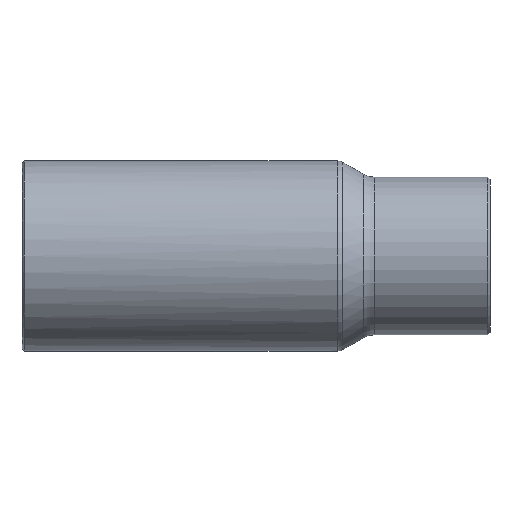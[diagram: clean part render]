
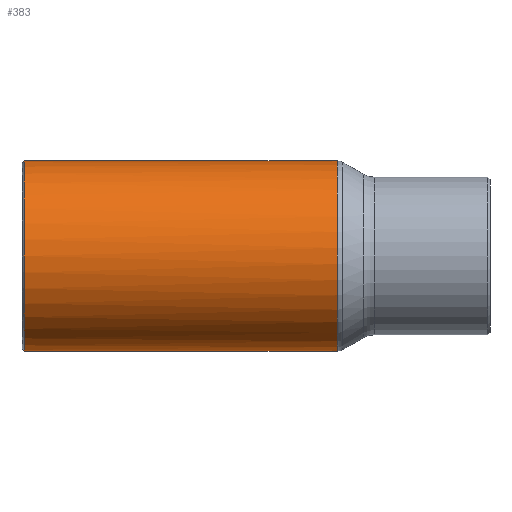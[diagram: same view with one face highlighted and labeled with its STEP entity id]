
A CAD part, front view. The second image highlights one B-rep face of the part: STEP entity #383.
In plain terms, the highlighted cylindrical face has radius 9.05 mm (diameter 18.1 mm), a full revolution.
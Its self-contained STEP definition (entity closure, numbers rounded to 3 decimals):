
#121=CARTESIAN_POINT('',(0.,0.0,-9.05));
#122=VERTEX_POINT('',#121);
#123=CARTESIAN_POINT('',(0.,0.0,9.05));
#124=VERTEX_POINT('',#123);
#309=CARTESIAN_POINT('',(-20.7,9.05,0.));
#310=VERTEX_POINT('',#309);
#311=CARTESIAN_POINT('',(-20.7,0.0,0.0));
#312=DIRECTION('',(-1.0,0.0,0.0));
#313=DIRECTION('',(0.0,-1.0,0.0));
#314=AXIS2_PLACEMENT_3D('',#311,#312,#313);
#315=CIRCLE('',#314,9.05);
#316=EDGE_CURVE('',#310,#310,#315,.T.);
#341=CARTESIAN_POINT('',(1.35,0.0,0.0));
#342=DIRECTION('',(1.0,0.0,0.0));
#343=DIRECTION('',(0.0,1.0,0.0));
#344=AXIS2_PLACEMENT_3D('',#341,#342,#343);
#345=CYLINDRICAL_SURFACE('',#344,9.05);
#346=CARTESIAN_POINT('',(9.099,7.13,5.574));
#347=VERTEX_POINT('',#346);
#348=CARTESIAN_POINT('',(9.099,7.13,-5.574));
#349=VERTEX_POINT('',#348);
#350=CARTESIAN_POINT('',(9.099,0.0,0.0));
#351=DIRECTION('',(1.0,0.0,0.0));
#352=DIRECTION('',(0.0,-1.0,0.0));
#353=AXIS2_PLACEMENT_3D('',#350,#351,#352);
#354=CIRCLE('',#353,9.05);
#355=EDGE_CURVE('',#347,#349,#354,.T.);
#356=ORIENTED_EDGE('',*,*,#355,.F.);
#357=CARTESIAN_POINT('',(0.0,0.0,0.0));
#358=DIRECTION('',(-0.617,0.787,0.0));
#359=DIRECTION('',(0.787,0.617,0.0));
#360=AXIS2_PLACEMENT_3D('',#357,#358,#359);
#361=ELLIPSE('',#360,14.673,9.05);
#362=EDGE_CURVE('',#124,#347,#361,.T.);
#363=ORIENTED_EDGE('',*,*,#362,.F.);
#364=CARTESIAN_POINT('',(0.0,0.0,0.0));
#365=DIRECTION('',(0.617,0.787,0.0));
#366=DIRECTION('',(-0.787,0.617,0.0));
#367=AXIS2_PLACEMENT_3D('',#364,#365,#366);
#368=ELLIPSE('',#367,14.673,9.05);
#369=EDGE_CURVE('',#122,#124,#368,.T.);
#370=ORIENTED_EDGE('',*,*,#369,.F.);
#371=CARTESIAN_POINT('',(0.0,0.0,0.0));
#372=DIRECTION('',(-0.617,0.787,0.0));
#373=DIRECTION('',(0.787,0.617,0.0));
#374=AXIS2_PLACEMENT_3D('',#371,#372,#373);
#375=ELLIPSE('',#374,14.673,9.05);
#376=EDGE_CURVE('',#349,#122,#375,.T.);
#377=ORIENTED_EDGE('',*,*,#376,.F.);
#378=EDGE_LOOP('',(#356,#363,#370,#377));
#379=FACE_OUTER_BOUND('',#378,.T.);
#380=ORIENTED_EDGE('',*,*,#316,.F.);
#381=EDGE_LOOP('',(#380));
#382=FACE_BOUND('',#381,.T.);
#383=ADVANCED_FACE('',(#379,#382),#345,.T.);
